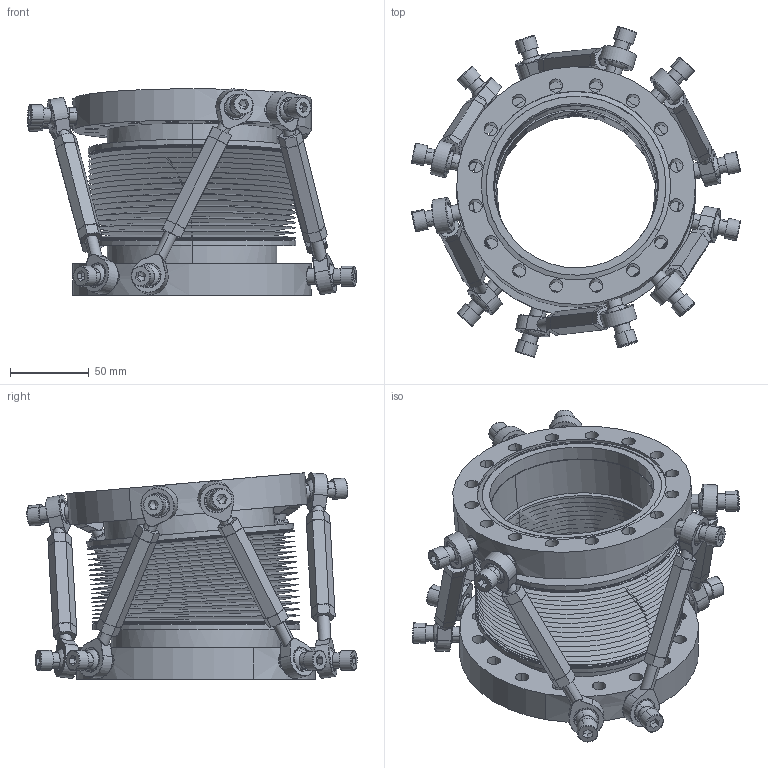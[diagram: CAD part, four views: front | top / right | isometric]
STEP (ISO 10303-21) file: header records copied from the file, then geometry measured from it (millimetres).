
FILE_DESCRIPTION(('Confidential','CAx-IF Rec.Pracs.--- Model Styling and Organization---1.2---2011-12-15'),'2;1');
FILE_NAME('W:\KONSTRUKTION\PRODUCTS\PA\PA100HEX\PA100HEX\PA100HEX_angular_5°.stp','2024-04-23T09:11:18+00:00',('none'),('Ferrovac AG'),'CATIA Version 5 Release 21 SP 6 (IN-10)','CATIA V5 STEP AP214','PROPERTY OF FERROVAC AG');
FILE_SCHEMA(('AUTOMOTIVE_DESIGN { 1 0 10303 214 1 1 1 1 }'));
Length unit declared in the file: millimetre
Products named in the file (1): PA100HEX_Aangular_5°
Bounding box: 209.45 x 210.28 x 131.38 mm (x, y, z)
Volume: 661066.2 mm3; surface area: 396664.9 mm2
Topology: 1 solids, 33 shells, 1644 faces, 3872 edges, 2412 vertices
Faces by surface type: plane 540, cylinder 536, cone 256, bspline 116, torus 100, sphere 96
Entity records: 56454 total; most frequent: CARTESIAN_POINT 23279, ORIENTED_EDGE 7664, DIRECTION 4743, EDGE_CURVE 3832, AXIS2_PLACEMENT_3D 2467, VERTEX_POINT 2412, EDGE_LOOP 1904, ADVANCED_FACE 1644
